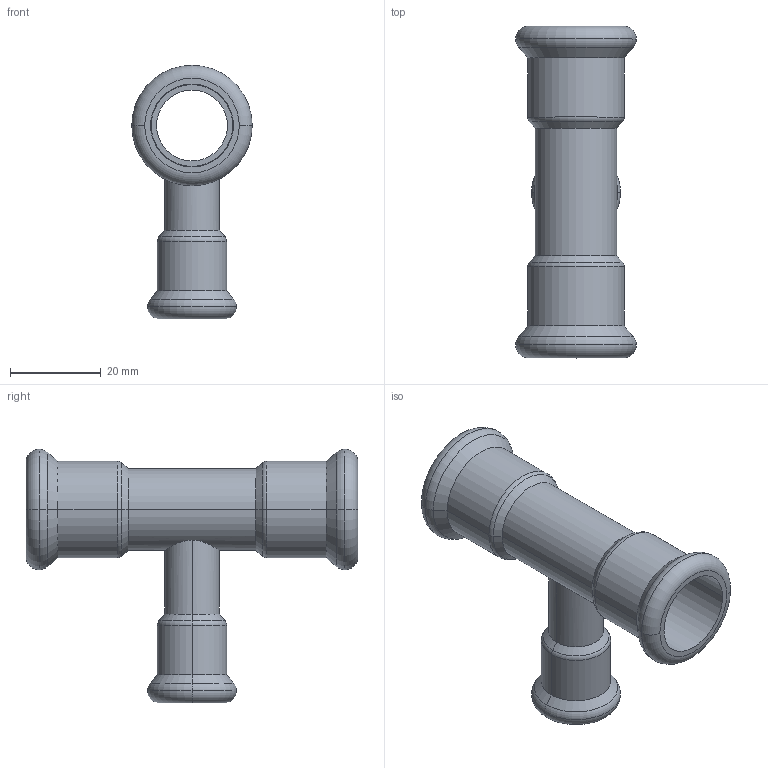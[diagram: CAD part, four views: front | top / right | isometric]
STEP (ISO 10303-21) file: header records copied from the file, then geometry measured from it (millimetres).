
FILE_DESCRIPTION(('CoCreate Modeling STEP Export'),'2;1');
FILE_NAME('C1415 18x12x18.stp','2014-11-11T17:03:17',(''),(''),'CoCreate Modeling STEP processor for AP214 (Solid Model)','CoCreate Modeling 17.00A 17-Jun-2010 (C) Parametric Technology GmbH','');
FILE_SCHEMA(('AUTOMOTIVE_DESIGN { 1 0 10303 214 1 1 1 1 }'));
Length unit declared in the file: millimetre
Products named in the file (2): C1415_18x12x18
Assembly tree (1 placements, depth 2):
  C1415_18x12x18
    C1415_18x12x18
Bounding box: 26.5 x 73 x 55.75 mm (x, y, z)
Volume: 10320.1 mm3; surface area: 12420 mm2
Topology: 1 solids, 1 shells, 66 faces, 135 edges, 79 vertices
Faces by surface type: cylinder 27, torus 18, cone 12, plane 9
Entity records: 2346 total; most frequent: CARTESIAN_POINT 1115, ORIENTED_EDGE 270, DIRECTION 220, EDGE_CURVE 135, AXIS2_PLACEMENT_3D 91, VERTEX_POINT 79, EDGE_LOOP 76, FACE_OUTER_BOUND 66
